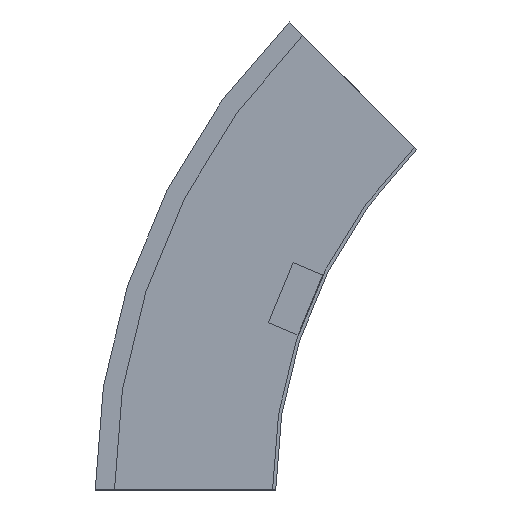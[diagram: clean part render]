
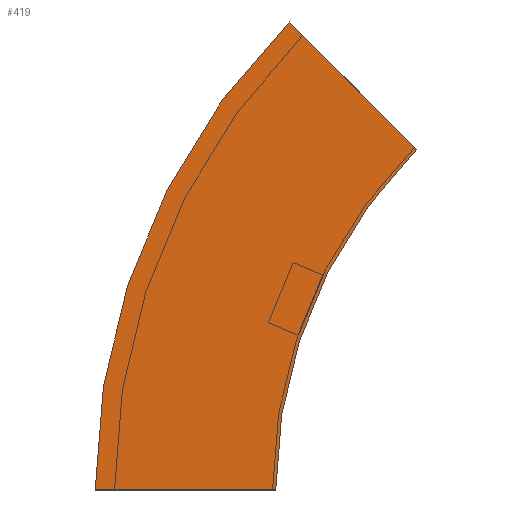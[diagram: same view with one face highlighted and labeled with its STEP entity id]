
A CAD part, left-side view. The second image highlights one B-rep face of the part: STEP entity #419.
In plain terms, the highlighted planar face has unit normal (-1, 0, 0) as drawn and (1, 0, 0) by its records, which use the part's own axes.
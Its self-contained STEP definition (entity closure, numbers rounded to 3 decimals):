
#3 = DIRECTION ( 'NONE',  ( 1., 0., 0. ) ) ;
#15 = CARTESIAN_POINT ( 'NONE',  ( 0., -87.868, 212.132 ) ) ;
#29 = LINE ( 'NONE', #223, #441 ) ;
#52 = VERTEX_POINT ( 'NONE', #521 ) ;
#71 = EDGE_CURVE ( 'NONE', #74, #52, #235, .T. ) ;
#74 = VERTEX_POINT ( 'NONE', #386 ) ;
#91 = CARTESIAN_POINT ( 'NONE',  ( 0., 0., 0. ) ) ;
#92 = ORIENTED_EDGE ( 'NONE', *, *, #529, .T. ) ;
#123 = DIRECTION ( 'NONE',  ( 1., 0., 0. ) ) ;
#166 = VERTEX_POINT ( 'NONE', #338 ) ;
#223 = CARTESIAN_POINT ( 'NONE',  ( 0., -87.868, 212.132 ) ) ;
#235 = CIRCLE ( 'NONE', #535, 412.5 ) ;
#265 = AXIS2_PLACEMENT_3D ( 'NONE', #91, #3, #275 ) ;
#266 = ORIENTED_EDGE ( 'NONE', *, *, #536, .F. ) ;
#273 = CARTESIAN_POINT ( 'NONE',  ( 0., -300., 0. ) ) ;
#275 = DIRECTION ( 'NONE',  ( 0., 0., -1. ) ) ;
#282 = LINE ( 'NONE', #473, #389 ) ;
#317 = DIRECTION ( 'NONE',  ( 0., 1., 0. ) ) ;
#318 = FACE_OUTER_BOUND ( 'NONE', #447, .T. ) ;
#338 = CARTESIAN_POINT ( 'NONE',  ( 0., 0., 0. ) ) ;
#386 = CARTESIAN_POINT ( 'NONE',  ( 0., 112.5, 0. ) ) ;
#389 = VECTOR ( 'NONE', #434, 1000. ) ;
#416 = EDGE_CURVE ( 'NONE', #166, #439, #526, .T. ) ;
#419 = ADVANCED_FACE ( 'NONE', ( #318 ), #487, .T. ) ;
#434 = DIRECTION ( 'NONE',  ( 0., 1., 0. ) ) ;
#435 = DIRECTION ( 'NONE',  ( 1., 0., 0. ) ) ;
#439 = VERTEX_POINT ( 'NONE', #15 ) ;
#441 = VECTOR ( 'NONE', #556, 1000. ) ;
#443 = ORIENTED_EDGE ( 'NONE', *, *, #71, .T. ) ;
#447 = EDGE_LOOP ( 'NONE', ( #443, #266, #531, #92 ) ) ;
#459 = AXIS2_PLACEMENT_3D ( 'NONE', #273, #435, #481 ) ;
#473 = CARTESIAN_POINT ( 'NONE',  ( 0., 0., 0. ) ) ;
#479 = CARTESIAN_POINT ( 'NONE',  ( 0., -300., 0. ) ) ;
#481 = DIRECTION ( 'NONE',  ( 0., 1., 0. ) ) ;
#487 = PLANE ( 'NONE',  #265 ) ;
#521 = CARTESIAN_POINT ( 'NONE',  ( 0., -8.318, 291.682 ) ) ;
#526 = CIRCLE ( 'NONE', #459, 300. ) ;
#529 = EDGE_CURVE ( 'NONE', #166, #74, #282, .T. ) ;
#531 = ORIENTED_EDGE ( 'NONE', *, *, #416, .F. ) ;
#535 = AXIS2_PLACEMENT_3D ( 'NONE', #479, #123, #317 ) ;
#536 = EDGE_CURVE ( 'NONE', #439, #52, #29, .T. ) ;
#556 = DIRECTION ( 'NONE',  ( 0., 0.707, 0.707 ) ) ;
